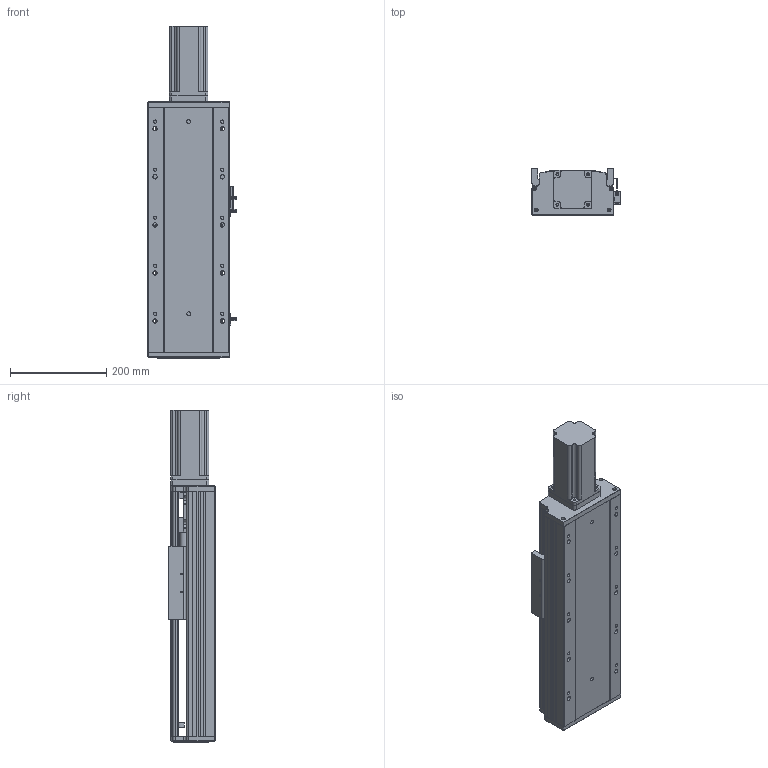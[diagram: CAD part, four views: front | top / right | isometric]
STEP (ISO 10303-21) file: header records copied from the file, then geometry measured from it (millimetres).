
FILE_DESCRIPTION (( 'STEP AP203' ), '1' );
FILE_NAME ('RY170-L2510-300-MK(FK17).SLDASM_200.step', '2022-08-23T02:00:06', ( '' ), ( '' ), 'SwSTEP 2.0', 'SolidWorks 2016', '' );
FILE_SCHEMA (( 'CONFIG_CONTROL_DESIGN' ));
Length unit declared in the file: millimetre
Products named in the file (15): RY170ヶ醱裔啣; RY170-300倰第菁釱-MK_200; RY170臏賑輸25佪裝蹟譫; 滅袉蝶18-10; 覜茼ん672; 滅袉蝶18-28; RY170电机端支撑座(25丝杆7004轴承)-压铸(FK17); RY170外置感应片(200共用）; RY170-300倰第裔啣-MK_200; 15; 750W萇儂梓袧蛌諉啣; 侂狟750W萇儂ㄗ80遺ㄘ; RY170綴裔啣; 侂狟400W侜督萇儂; RY170-L2510-300-MK(FK17).SLDASM_200
Assembly tree (16 placements, depth 3):
  RY170-L2510-300-MK(FK17).SLDASM_200
    RY170-300倰第菁釱-MK_200
    RY170-300倰第裔啣-MK_200
    RY170臏賑輸25佪裝蹟譫
    侂狟400W侜督萇儂
      15
    RY170綴裔啣
    RY170电机端支撑座(25丝杆7004轴承)-压铸(FK17)
    覜茼ん672  x3
    RY170外置感应片(200共用）
    RY170ヶ醱裔啣
    滅袉蝶18-28
    滅袉蝶18-10
    侂狟750W萇儂ㄗ80遺ㄘ
    750W萇儂梓袧蛌諉啣
Bounding box: 183.7 x 97 x 691 mm (x, y, z)
Volume: 4407704.2 mm3; surface area: 1120680.6 mm2
Topology: 15 solids, 15 shells, 2099 faces, 5951 edges, 3824 vertices
Faces by surface type: plane 1014, cylinder 850, cone 199, bspline 36
Entity records: 67123 total; most frequent: CARTESIAN_POINT 15272, ORIENTED_EDGE 10698, DIRECTION 10375, EDGE_CURVE 5349, AXIS2_PLACEMENT_3D 3580, VERTEX_POINT 3504, LINE 3215, VECTOR 3215
